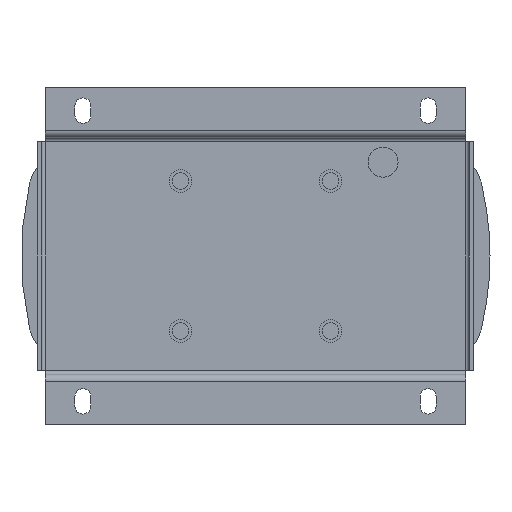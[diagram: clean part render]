
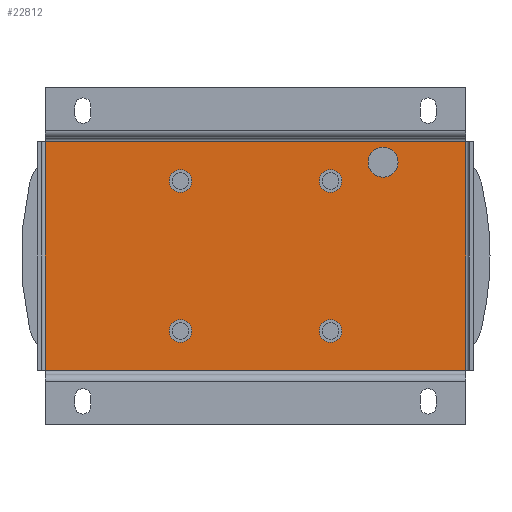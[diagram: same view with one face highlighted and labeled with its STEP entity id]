
A CAD part, front view. The second image highlights one B-rep face of the part: STEP entity #22812.
In plain terms, the highlighted planar face has unit normal (0, -1, 0).
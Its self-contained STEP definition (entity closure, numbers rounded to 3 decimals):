
#472 = DIRECTION ( 'NONE',  ( 0., -1., 0. ) ) ;
#707 = DIRECTION ( 'NONE',  ( 0., 0., -1. ) ) ;
#1011 = CARTESIAN_POINT ( 'NONE',  ( 112., 16., 61. ) ) ;
#1284 = LINE ( 'NONE', #6299, #2071 ) ;
#1454 = FACE_BOUND ( 'NONE', #23075, .T. ) ;
#1745 = CIRCLE ( 'NONE', #15074, 6. ) ;
#2071 = VECTOR ( 'NONE', #13694, 1000. ) ;
#2091 = AXIS2_PLACEMENT_3D ( 'NONE', #8338, #12254, #15607 ) ;
#2179 = VECTOR ( 'NONE', #18707, 1000. ) ;
#2522 = VERTEX_POINT ( 'NONE', #1011 ) ;
#2553 = ORIENTED_EDGE ( 'NONE', *, *, #14744, .F. ) ;
#2731 = EDGE_CURVE ( 'NONE', #15002, #2830, #6201, .T. ) ;
#2830 = VERTEX_POINT ( 'NONE', #5977 ) ;
#2987 = DIRECTION ( 'NONE',  ( 0., -1., 0. ) ) ;
#2994 = CARTESIAN_POINT ( 'NONE',  ( -40., 16., 34. ) ) ;
#3224 = CIRCLE ( 'NONE', #16565, 6. ) ;
#3229 = FACE_BOUND ( 'NONE', #4440, .T. ) ;
#3471 = CARTESIAN_POINT ( 'NONE',  ( 68., 16., 42. ) ) ;
#3746 = CIRCLE ( 'NONE', #14025, 6. ) ;
#4048 = ORIENTED_EDGE ( 'NONE', *, *, #18783, .T. ) ;
#4291 = CARTESIAN_POINT ( 'NONE',  ( -112., 16., 61. ) ) ;
#4320 = EDGE_CURVE ( 'NONE', #15786, #18699, #9984, .T. ) ;
#4440 = EDGE_LOOP ( 'NONE', ( #11449, #5526 ) ) ;
#4450 = DIRECTION ( 'NONE',  ( 0., -1., 0. ) ) ;
#4572 = DIRECTION ( 'NONE',  ( 0., 0., -1. ) ) ;
#4746 = VECTOR ( 'NONE', #12402, 1000. ) ;
#4915 = VECTOR ( 'NONE', #8912, 1000. ) ;
#4929 = EDGE_CURVE ( 'NONE', #14835, #19381, #9249, .T. ) ;
#4934 = CARTESIAN_POINT ( 'NONE',  ( 40., 16., -46. ) ) ;
#5526 = ORIENTED_EDGE ( 'NONE', *, *, #20716, .F. ) ;
#5705 = EDGE_LOOP ( 'NONE', ( #23154, #7253 ) ) ;
#5740 = CARTESIAN_POINT ( 'NONE',  ( 112., 16., -61. ) ) ;
#5960 = ORIENTED_EDGE ( 'NONE', *, *, #2731, .F. ) ;
#5977 = CARTESIAN_POINT ( 'NONE',  ( -112., 16., -61. ) ) ;
#6201 = LINE ( 'NONE', #19056, #2179 ) ;
#6299 = CARTESIAN_POINT ( 'NONE',  ( -112., 16., 61. ) ) ;
#6958 = AXIS2_PLACEMENT_3D ( 'NONE', #18353, #18820, #20262 ) ;
#6964 = CIRCLE ( 'NONE', #22167, 6. ) ;
#7253 = ORIENTED_EDGE ( 'NONE', *, *, #15875, .F. ) ;
#7528 = CARTESIAN_POINT ( 'NONE',  ( 40., 16., 46. ) ) ;
#8113 = DIRECTION ( 'NONE',  ( 0., 0., -1. ) ) ;
#8126 = EDGE_CURVE ( 'NONE', #8920, #14314, #6964, .T. ) ;
#8185 = CARTESIAN_POINT ( 'NONE',  ( 40., 16., -34. ) ) ;
#8236 = CARTESIAN_POINT ( 'NONE',  ( 40., 16., -40. ) ) ;
#8338 = CARTESIAN_POINT ( 'NONE',  ( -40., 16., -40. ) ) ;
#8516 = CIRCLE ( 'NONE', #10024, 8. ) ;
#8546 = EDGE_CURVE ( 'NONE', #12292, #11895, #8516, .T. ) ;
#8630 = CARTESIAN_POINT ( 'NONE',  ( 40., 16., 34. ) ) ;
#8912 = DIRECTION ( 'NONE',  ( 0., 0., -1. ) ) ;
#8920 = VERTEX_POINT ( 'NONE', #2994 ) ;
#9061 = ORIENTED_EDGE ( 'NONE', *, *, #4929, .F. ) ;
#9249 = CIRCLE ( 'NONE', #6958, 6. ) ;
#9920 = ORIENTED_EDGE ( 'NONE', *, *, #15476, .F. ) ;
#9944 = DIRECTION ( 'NONE',  ( 0., -1., 0. ) ) ;
#9968 = CIRCLE ( 'NONE', #16059, 6. ) ;
#9984 = CIRCLE ( 'NONE', #18338, 6. ) ;
#10024 = AXIS2_PLACEMENT_3D ( 'NONE', #18822, #17053, #707 ) ;
#10112 = AXIS2_PLACEMENT_3D ( 'NONE', #15145, #472, #13004 ) ;
#10388 = EDGE_LOOP ( 'NONE', ( #4048, #5960, #22066, #23536 ) ) ;
#10517 = FACE_BOUND ( 'NONE', #17999, .T. ) ;
#10574 = CARTESIAN_POINT ( 'NONE',  ( -40., 16., -40. ) ) ;
#11139 = EDGE_CURVE ( 'NONE', #19381, #14835, #9968, .T. ) ;
#11178 = VERTEX_POINT ( 'NONE', #4291 ) ;
#11193 = EDGE_CURVE ( 'NONE', #2522, #15002, #19880, .T. ) ;
#11247 = ORIENTED_EDGE ( 'NONE', *, *, #17581, .F. ) ;
#11449 = ORIENTED_EDGE ( 'NONE', *, *, #8126, .F. ) ;
#11486 = ORIENTED_EDGE ( 'NONE', *, *, #8546, .F. ) ;
#11578 = CARTESIAN_POINT ( 'NONE',  ( 68., 16., 58. ) ) ;
#11670 = CARTESIAN_POINT ( 'NONE',  ( -40., 16., -46. ) ) ;
#11691 = DIRECTION ( 'NONE',  ( 0., -1., 0. ) ) ;
#11724 = DIRECTION ( 'NONE',  ( 0., 0., -1. ) ) ;
#11895 = VERTEX_POINT ( 'NONE', #3471 ) ;
#11911 = DIRECTION ( 'NONE',  ( 0., 0., -1. ) ) ;
#12254 = DIRECTION ( 'NONE',  ( 0., -1., 0. ) ) ;
#12292 = VERTEX_POINT ( 'NONE', #11578 ) ;
#12402 = DIRECTION ( 'NONE',  ( 0., 0., -1. ) ) ;
#13004 = DIRECTION ( 'NONE',  ( 0., 0., -1. ) ) ;
#13694 = DIRECTION ( 'NONE',  ( -1., 0., 0. ) ) ;
#13821 = DIRECTION ( 'NONE',  ( 0., -1., 0. ) ) ;
#13838 = CARTESIAN_POINT ( 'NONE',  ( 68., 16., 50. ) ) ;
#13982 = DIRECTION ( 'NONE',  ( 0., 0., -1. ) ) ;
#14025 = AXIS2_PLACEMENT_3D ( 'NONE', #18753, #9944, #4572 ) ;
#14209 = FACE_OUTER_BOUND ( 'NONE', #10388, .T. ) ;
#14314 = VERTEX_POINT ( 'NONE', #16030 ) ;
#14642 = CIRCLE ( 'NONE', #19954, 8. ) ;
#14744 = EDGE_CURVE ( 'NONE', #17181, #14924, #1745, .T. ) ;
#14835 = VERTEX_POINT ( 'NONE', #4934 ) ;
#14924 = VERTEX_POINT ( 'NONE', #8630 ) ;
#15002 = VERTEX_POINT ( 'NONE', #5740 ) ;
#15074 = AXIS2_PLACEMENT_3D ( 'NONE', #20765, #4450, #11724 ) ;
#15145 = CARTESIAN_POINT ( 'NONE',  ( 0., 16., 0. ) ) ;
#15476 = EDGE_CURVE ( 'NONE', #11895, #12292, #14642, .T. ) ;
#15607 = DIRECTION ( 'NONE',  ( 0., 0., -1. ) ) ;
#15786 = VERTEX_POINT ( 'NONE', #11670 ) ;
#15875 = EDGE_CURVE ( 'NONE', #18699, #15786, #19598, .T. ) ;
#15889 = EDGE_CURVE ( 'NONE', #2522, #11178, #1284, .T. ) ;
#16030 = CARTESIAN_POINT ( 'NONE',  ( -40., 16., 46. ) ) ;
#16059 = AXIS2_PLACEMENT_3D ( 'NONE', #8236, #11691, #8113 ) ;
#16294 = LINE ( 'NONE', #23539, #4915 ) ;
#16463 = FACE_BOUND ( 'NONE', #19967, .T. ) ;
#16565 = AXIS2_PLACEMENT_3D ( 'NONE', #20841, #13821, #11911 ) ;
#17053 = DIRECTION ( 'NONE',  ( 0., -1., 0. ) ) ;
#17181 = VERTEX_POINT ( 'NONE', #7528 ) ;
#17306 = DIRECTION ( 'NONE',  ( 0., -1., 0. ) ) ;
#17581 = EDGE_CURVE ( 'NONE', #14924, #17181, #3224, .T. ) ;
#17782 = FACE_BOUND ( 'NONE', #5705, .T. ) ;
#17840 = DIRECTION ( 'NONE',  ( 0., -1., 0. ) ) ;
#17999 = EDGE_LOOP ( 'NONE', ( #11247, #2553 ) ) ;
#18338 = AXIS2_PLACEMENT_3D ( 'NONE', #10574, #17840, #19735 ) ;
#18353 = CARTESIAN_POINT ( 'NONE',  ( 40., 16., -40. ) ) ;
#18699 = VERTEX_POINT ( 'NONE', #19266 ) ;
#18707 = DIRECTION ( 'NONE',  ( -1., 0., 0. ) ) ;
#18753 = CARTESIAN_POINT ( 'NONE',  ( -40., 16., 40. ) ) ;
#18783 = EDGE_CURVE ( 'NONE', #11178, #2830, #16294, .T. ) ;
#18820 = DIRECTION ( 'NONE',  ( 0., -1., 0. ) ) ;
#18822 = CARTESIAN_POINT ( 'NONE',  ( 68., 16., 50. ) ) ;
#19056 = CARTESIAN_POINT ( 'NONE',  ( 112., 16., -61. ) ) ;
#19179 = DIRECTION ( 'NONE',  ( 0., 0., -1. ) ) ;
#19266 = CARTESIAN_POINT ( 'NONE',  ( -40., 16., -34. ) ) ;
#19381 = VERTEX_POINT ( 'NONE', #8185 ) ;
#19598 = CIRCLE ( 'NONE', #2091, 6. ) ;
#19735 = DIRECTION ( 'NONE',  ( 0., 0., -1. ) ) ;
#19880 = LINE ( 'NONE', #23209, #4746 ) ;
#19954 = AXIS2_PLACEMENT_3D ( 'NONE', #13838, #2987, #19179 ) ;
#19967 = EDGE_LOOP ( 'NONE', ( #11486, #9920 ) ) ;
#20050 = ORIENTED_EDGE ( 'NONE', *, *, #11139, .F. ) ;
#20262 = DIRECTION ( 'NONE',  ( 0., 0., -1. ) ) ;
#20716 = EDGE_CURVE ( 'NONE', #14314, #8920, #3746, .T. ) ;
#20765 = CARTESIAN_POINT ( 'NONE',  ( 40., 16., 40. ) ) ;
#20841 = CARTESIAN_POINT ( 'NONE',  ( 40., 16., 40. ) ) ;
#20998 = CARTESIAN_POINT ( 'NONE',  ( -40., 16., 40. ) ) ;
#21461 = PLANE ( 'NONE',  #10112 ) ;
#22066 = ORIENTED_EDGE ( 'NONE', *, *, #11193, .F. ) ;
#22167 = AXIS2_PLACEMENT_3D ( 'NONE', #20998, #17306, #13982 ) ;
#22812 = ADVANCED_FACE ( 'NONE', ( #16463, #3229, #10517, #17782, #1454, #14209 ), #21461, .T. ) ;
#23075 = EDGE_LOOP ( 'NONE', ( #9061, #20050 ) ) ;
#23154 = ORIENTED_EDGE ( 'NONE', *, *, #4320, .F. ) ;
#23209 = CARTESIAN_POINT ( 'NONE',  ( 112., 16., 61. ) ) ;
#23536 = ORIENTED_EDGE ( 'NONE', *, *, #15889, .T. ) ;
#23539 = CARTESIAN_POINT ( 'NONE',  ( -112., 16., 61. ) ) ;
